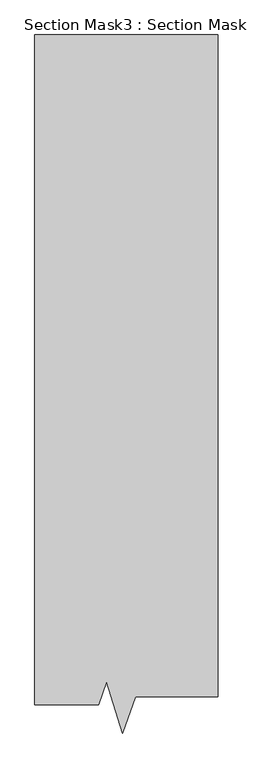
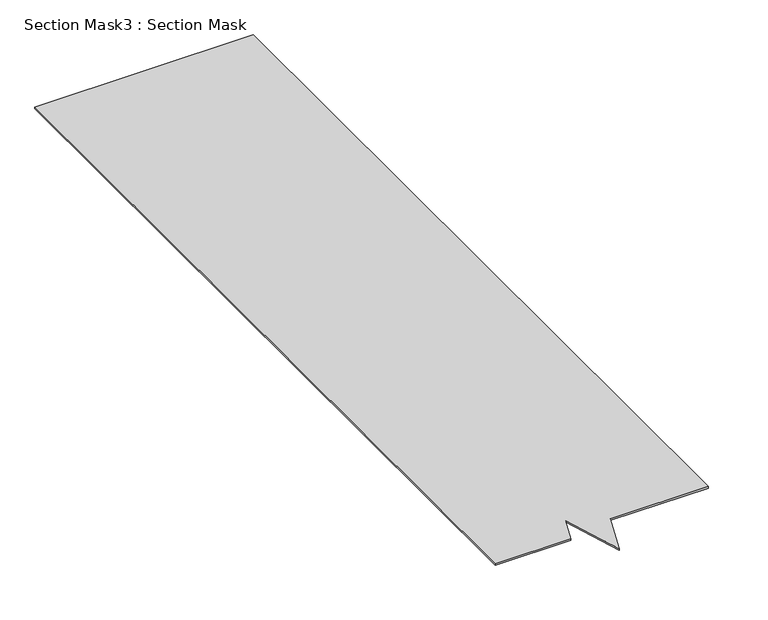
"""IFC4 building model written with IfcOpenShell, lengths in millimetres: proxy geometry, Section Mask3 : Section Mask."""

from ifc_helpers import new_model, si_unit, frame, origin, place, context, project, spatial, polyline, outline, extrude, source, transform, mapped, element, save


def section_mask3_section_mask_1676ee38(model_context):
    return source(origin(), model_context, "Body", "SweptSolid", [
        extrude(outline(polyline([(8124.664325, 631.273934), (7950.4235609, 631.273934), (7950.4235609, 2465.4614947), (8452.5633775, 2465.4614947), (8452.5633775, 652.1224056), (8227.2982256, 652.1224056), (8190.6813689, 552.9595639), (8147.6812645, 693.6065681), (8124.664325, 631.273934)])), frame((0.0, 0.0, 45.0273345), z_axis=(0.0, 0.0, 1.0), x_axis=(1.0, 0.0, 0.0)), (0.0, 0.0, 1.0), 3.7483171),
    ])


if __name__ == "__main__":
    model = new_model("IFC4")
    model_context = context("Model", 3, world=origin())
    ifc_project = project(units=[si_unit("LENGTHUNIT", "METRE", prefix="MILLI")], contexts=[model_context])
    site = spatial("IfcSite", under=ifc_project)
    building = spatial("IfcBuilding", under=site)
    placement = place(None, origin())
    section_mask3_section_mask_shape = section_mask3_section_mask_1676ee38(model_context)
    element("IfcBuildingElementProxy", 1, Name="Section Mask3 : Section Mask", ObjectType="Section Mask3 : Section Mask", at=placement, inside=building, context=model_context, shape_type="MappedRepresentation", body=[
        mapped(section_mask3_section_mask_shape, transform((0.0, 0.0, 0.0), x_axis=(1.0, 0.0, 0.0), y_axis=(0.0, 1.0, 0.0), z_axis=(0.0, 0.0, 1.0))),
    ])
    save(model, "model.ifc")
